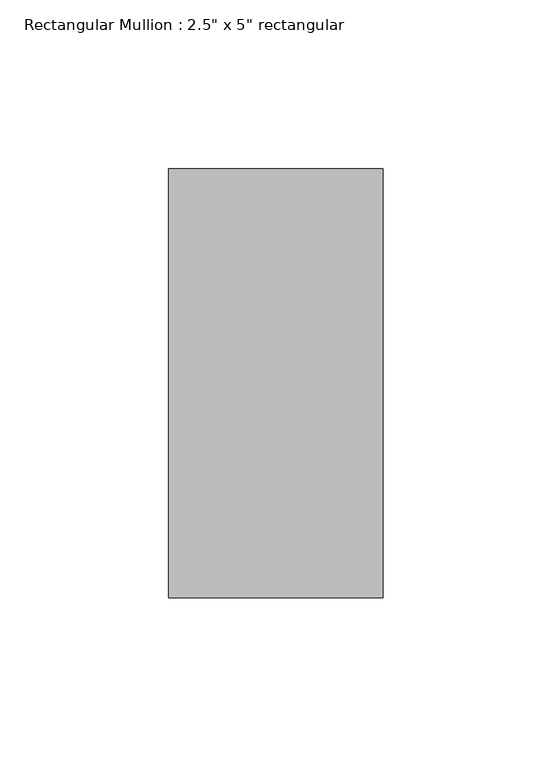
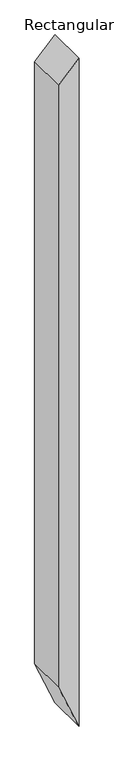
"""IFC4 building model written with IfcOpenShell, lengths in millimetres: member geometry."""

import ifcopenshell
import ifcopenshell.guid

model = None  # the IFC model being written
_history = None  # IfcOwnerHistory: only IFC2X3 demands one
_inside = {}  # id of a spatial element -> (the spatial element, [elements in it])
_under = {}  # id of a project, library or spatial element -> (it, [spatial elements below it])
_declared = {}  # id of a project -> (the project, [libraries it declares])
_typed = {}  # id of a type object -> (the type object, [elements of that type])
_made_of = {}  # id of a material, layer set ... -> (it, [elements and type objects made of it])


def new_model(schema):
    """Start an empty IFC model of exactly this schema.

    Asked for "IFC4X3", IfcOpenShell would pick the latest addendum, in which some entities
    have other attributes; the version numbers below select the first issue.
    IFC2X3 requires an IfcOwnerHistory on every rooted entity: one is made here for all.
    """
    global model, _history
    if schema == "IFC4X3":
        model = ifcopenshell.file(schema_version=(4, 3, 0, 0))
    else:
        model = ifcopenshell.file(schema=schema)
    _inside.clear()
    _under.clear()
    _declared.clear()
    _typed.clear()
    _made_of.clear()
    _history = None
    if model.schema == "IFC2X3":
        org = make("IfcOrganization", Name="unknown")
        user = make(
            "IfcPersonAndOrganization",
            ThePerson=make("IfcPerson", FamilyName="unknown"),
            TheOrganization=org,
        )
        app = make(
            "IfcApplication",
            ApplicationDeveloper=org,
            Version="unknown",
            ApplicationFullName="unknown",
            ApplicationIdentifier="unknown",
        )
        _history = make(
            "IfcOwnerHistory",
            OwningUser=user,
            OwningApplication=app,
            ChangeAction="ADDED",
            CreationDate=0,
        )
    return model


def make(cls, **values):
    """One entity of the class cls with the attributes given. An attribute that is None is left unset."""
    return model.create_entity(
        cls, **{name: value for name, value in values.items() if value is not None}
    )


def rooted(cls, **values):
    """An entity with a GlobalId (a new one), such as an element, a storey or a relation."""
    return make(cls, GlobalId=ifcopenshell.guid.new(), OwnerHistory=_history, **values)


def si_unit(unit_type, name, prefix=None):
    """IfcSIUnit, for example si_unit("LENGTHUNIT", "METRE", prefix="MILLI")."""
    return make("IfcSIUnit", UnitType=unit_type, Prefix=prefix, Name=name)


def assignment(units):
    """IfcUnitAssignment: the units of a project."""
    return None if units is None else make("IfcUnitAssignment", Units=units)


def point(xyz):
    """IfcCartesianPoint."""
    return None if xyz is None else make("IfcCartesianPoint", Coordinates=xyz)


def direction(xyz):
    """IfcDirection."""
    return None if xyz is None else make("IfcDirection", DirectionRatios=xyz)


def frame(location, z_axis=None, x_axis=None):
    """IfcAxis2Placement3D, a coordinate frame: its origin and axes. An axis left out is left unset."""
    return make(
        "IfcAxis2Placement3D",
        Location=point(location),
        Axis=direction(z_axis),
        RefDirection=direction(x_axis),
    )


def origin():
    """The frame at (0, 0, 0) with its axes left unset."""
    return frame((0.0, 0.0, 0.0))


def place(relative_to, where):
    """IfcLocalPlacement: puts the frame where relative to a parent placement (None: the world)."""
    return make(
        "IfcLocalPlacement", PlacementRelTo=relative_to, RelativePlacement=where
    )


def context(
    kind, dimensions, precision=None, world=None, true_north=None, identifier=None
):
    """IfcGeometricRepresentationContext, for example the 3D "Model" context."""
    return make(
        "IfcGeometricRepresentationContext",
        ContextIdentifier=identifier,
        ContextType=kind,
        CoordinateSpaceDimension=dimensions,
        Precision=precision,
        WorldCoordinateSystem=world,
        TrueNorth=true_north,
    )


def project(units=None, contexts=None):
    """IfcProject with its units and contexts."""
    return rooted(
        "IfcProject",
        Name="project",
        RepresentationContexts=contexts,
        UnitsInContext=assignment(units),
    )


def spatial(cls, under=None, at=None, **own):
    """A site, building, storey or space (cls), placed at a placement, below another one or the project."""
    s = rooted(cls, ObjectPlacement=at, **own)
    if under is not None:
        _under.setdefault(under.id(), (under, []))[1].append(s)
    return s


def polyline(points):
    """IfcPolyline through the points."""
    return make("IfcPolyline", Points=[point(p) for p in points])


def outline(outer, holes=None, kind="AREA"):
    """IfcArbitraryClosedProfileDef: a profile drawn as a closed curve; with holes, ...WithVoids."""
    if holes is None:
        return make("IfcArbitraryClosedProfileDef", ProfileType=kind, OuterCurve=outer)
    return make(
        "IfcArbitraryProfileDefWithVoids",
        ProfileType=kind,
        OuterCurve=outer,
        InnerCurves=holes,
    )


def extrude(swept, where, along, depth):
    """IfcExtrudedAreaSolid: the profile swept, set in the frame where, extruded along a direction by depth."""
    return make(
        "IfcExtrudedAreaSolid",
        SweptArea=swept,
        Position=where,
        ExtrudedDirection=direction(along),
        Depth=depth,
    )


def shape(context_of_items, identifier, shape_type, items):
    """IfcShapeRepresentation: the items that make up one representation, for example the "Body"."""
    return make(
        "IfcShapeRepresentation",
        ContextOfItems=context_of_items,
        RepresentationIdentifier=identifier,
        RepresentationType=shape_type,
        Items=items,
    )


def source(mapping_origin, context_of_items, identifier, shape_type, items):
    """IfcRepresentationMap: a shape defined once, which mapped items show again and again."""
    return make(
        "IfcRepresentationMap",
        MappingOrigin=mapping_origin,
        MappedRepresentation=shape(context_of_items, identifier, shape_type, items),
    )


def transform(
    local_origin,
    x_axis=None,
    y_axis=None,
    z_axis=None,
    scale=None,
    scale2=None,
    scale3=None,
    uniform=True,
):
    """IfcCartesianTransformationOperator3D, or its non-uniform kind. x_axis, y_axis, z_axis: its Axis1, 2, 3."""
    if uniform:
        return make(
            "IfcCartesianTransformationOperator3D",
            Axis1=direction(x_axis),
            Axis2=direction(y_axis),
            LocalOrigin=point(local_origin),
            Scale=scale,
            Axis3=direction(z_axis),
        )
    return make(
        "IfcCartesianTransformationOperator3DnonUniform",
        Axis1=direction(x_axis),
        Axis2=direction(y_axis),
        LocalOrigin=point(local_origin),
        Scale=scale,
        Axis3=direction(z_axis),
        Scale2=scale2,
        Scale3=scale3,
    )


def mapped(mapping_source, mapping_target):
    """IfcMappedItem: shows the shape of a source again, moved by a transform."""
    return make(
        "IfcMappedItem", MappingSource=mapping_source, MappingTarget=mapping_target
    )


def made_of(thing, what):
    """Note that an element or type object is made of a material, layer set ...; save() writes the relation."""
    if what is not None:
        _made_of.setdefault(what.id(), (what, []))[1].append(thing)
    return thing


def element(
    cls,
    number,
    at=None,
    inside=None,
    cuts=None,
    type_object=None,
    material=None,
    context=None,
    identifier="Body",
    shape_type=None,
    held_by="IfcProductDefinitionShape",
    body=None,
    shapes=None,
    **own,
):
    """One element of the class cls, such as IfcWall. Its Tag is "e" and its number.

    at: its placement. inside: the storey or other place that contains it. cuts: it is an
    opening in that element (IfcRelVoidsElement). A single representation is given by context,
    identifier, shape_type and body (its items); several are given by shapes. held_by: the class
    of the entity that holds the representations. save() writes the other relations.
    """
    e = rooted(cls, Tag="e%d" % number, ObjectPlacement=at, **own)
    if body is not None:
        shapes = [shape(context, identifier, shape_type, body)]
    if shapes is not None:
        e.Representation = make(held_by, Representations=shapes)
    if inside is not None:
        _inside.setdefault(inside.id(), (inside, []))[1].append(e)
    if cuts is not None:
        rooted(
            "IfcRelVoidsElement", RelatingBuildingElement=cuts, RelatedOpeningElement=e
        )
    if type_object is not None:
        _typed.setdefault(type_object.id(), (type_object, []))[1].append(e)
    return made_of(e, material)


def aggregate(whole, parts):
    """IfcRelAggregates: a whole, such as a stair, and the parts it consists of."""
    return rooted("IfcRelAggregates", RelatingObject=whole, RelatedObjects=parts)


def save(model, path):
    """Write the relations noted so far, then the file.

    IfcRelAggregates (storeys below a building ...), IfcRelContainedInSpatialStructure (elements
    in a storey), IfcRelDefinesByType, IfcRelAssociatesMaterial and IfcRelDeclares: one each for
    every whole, place, type object, material and project.
    """
    for whole, parts in _under.values():
        aggregate(whole, parts)
    for where, things in _inside.values():
        rooted(
            "IfcRelContainedInSpatialStructure",
            RelatedElements=things,
            RelatingStructure=where,
        )
    for kind, things in _typed.values():
        rooted("IfcRelDefinesByType", RelatedObjects=things, RelatingType=kind)
    for what, things in _made_of.values():
        rooted("IfcRelAssociatesMaterial", RelatedObjects=things, RelatingMaterial=what)
    for by, libraries in _declared.values():
        rooted("IfcRelDeclares", RelatingContext=by, RelatedDefinitions=libraries)
    model.write(path)


def member_35848865(model_context):
    return source(origin(), model_context, "Body", "SweptSolid", [
        extrude(outline(polyline([(0.0, 0.0), (-65.4543018, -63.5), (-2035.729959, -63.5), (-2185.8060871, 0.0), (0.0, 0.0)])), frame((0.0, -63.5, 0.0), z_axis=(0.0, 1.0, 0.0), x_axis=(0.0, 0.0, 1.0)), (0.0, 0.0, 1.0), 127.0),
    ])


if __name__ == "__main__":
    model = new_model("IFC4")
    model_context = context("Model", 3, world=origin())
    ifc_project = project(units=[si_unit("LENGTHUNIT", "METRE", prefix="MILLI")], contexts=[model_context])
    site = spatial("IfcSite", under=ifc_project)
    building = spatial("IfcBuilding", under=site)
    placement = place(None, origin())
    member_shape = member_35848865(model_context)
    element("IfcMember", 1, ObjectType="Rectangular Mullion : 2.5\" x 5\" rectangular", at=placement, inside=building, context=model_context, shape_type="MappedRepresentation", body=[
        mapped(member_shape, transform((0.0, 0.0, 0.0), x_axis=(1.0, 0.0, 0.0), y_axis=(0.0, 1.0, 0.0), z_axis=(0.0, 0.0, 1.0))),
    ])
    save(model, "model.ifc")
